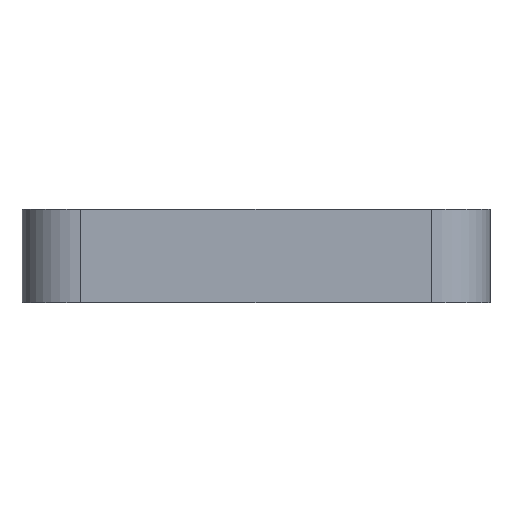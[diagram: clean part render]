
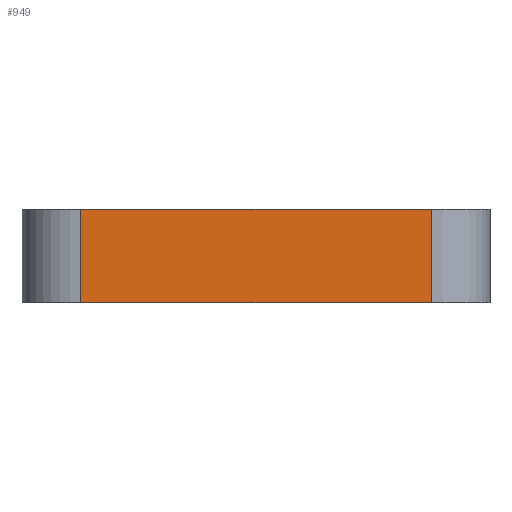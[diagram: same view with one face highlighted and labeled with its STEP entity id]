
A CAD part, front view. The second image highlights one B-rep face of the part: STEP entity #949.
In plain terms, the highlighted planar face has unit normal (0, -1, 0).
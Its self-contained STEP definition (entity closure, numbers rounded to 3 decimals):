
#20 = DIRECTION ( 'NONE',  ( 0., 0., 1. ) ) ;
#174 = VERTEX_POINT ( 'NONE', #497 ) ;
#225 = ORIENTED_EDGE ( 'NONE', *, *, #654, .T. ) ;
#286 = VECTOR ( 'NONE', #697, 1000. ) ;
#290 = VECTOR ( 'NONE', #20, 1000. ) ;
#307 = LINE ( 'NONE', #871, #286 ) ;
#320 = LINE ( 'NONE', #1074, #290 ) ;
#330 = FACE_OUTER_BOUND ( 'NONE', #835, .T. ) ;
#349 = LINE ( 'NONE', #930, #384 ) ;
#354 = ORIENTED_EDGE ( 'NONE', *, *, #831, .F. ) ;
#384 = VECTOR ( 'NONE', #850, 1000. ) ;
#393 = VERTEX_POINT ( 'NONE', #935 ) ;
#497 = CARTESIAN_POINT ( 'NONE',  ( -15., -50., 8. ) ) ;
#509 = CARTESIAN_POINT ( 'NONE',  ( -15., -50., 0. ) ) ;
#544 = CARTESIAN_POINT ( 'NONE',  ( 20., -50., 8. ) ) ;
#623 = PLANE ( 'NONE',  #845 ) ;
#644 = ORIENTED_EDGE ( 'NONE', *, *, #884, .T. ) ;
#654 = EDGE_CURVE ( 'NONE', #975, #393, #320, .T. ) ;
#697 = DIRECTION ( 'NONE',  ( 0., 0., -1. ) ) ;
#744 = EDGE_CURVE ( 'NONE', #174, #801, #307, .T. ) ;
#759 = DIRECTION ( 'NONE',  ( -1., 0., 0. ) ) ;
#801 = VERTEX_POINT ( 'NONE', #509 ) ;
#831 = EDGE_CURVE ( 'NONE', #174, #393, #349, .T. ) ;
#835 = EDGE_LOOP ( 'NONE', ( #354, #1087, #644, #225 ) ) ;
#845 = AXIS2_PLACEMENT_3D ( 'NONE', #544, #1036, #759 ) ;
#850 = DIRECTION ( 'NONE',  ( 1., 0., 0. ) ) ;
#871 = CARTESIAN_POINT ( 'NONE',  ( -15., -50., 8. ) ) ;
#884 = EDGE_CURVE ( 'NONE', #801, #975, #1257, .T. ) ;
#885 = CARTESIAN_POINT ( 'NONE',  ( 20., -50., 0. ) ) ;
#902 = CARTESIAN_POINT ( 'NONE',  ( 15., -50., 0. ) ) ;
#930 = CARTESIAN_POINT ( 'NONE',  ( 20., -50., 8. ) ) ;
#935 = CARTESIAN_POINT ( 'NONE',  ( 15., -50., 8. ) ) ;
#949 = ADVANCED_FACE ( 'NONE', ( #330 ), #623, .F. ) ;
#975 = VERTEX_POINT ( 'NONE', #902 ) ;
#1036 = DIRECTION ( 'NONE',  ( 0., 1., 0. ) ) ;
#1074 = CARTESIAN_POINT ( 'NONE',  ( 15., -50., 8. ) ) ;
#1087 = ORIENTED_EDGE ( 'NONE', *, *, #744, .T. ) ;
#1138 = DIRECTION ( 'NONE',  ( 1., 0., 0. ) ) ;
#1257 = LINE ( 'NONE', #885, #1279 ) ;
#1279 = VECTOR ( 'NONE', #1138, 1000. ) ;
